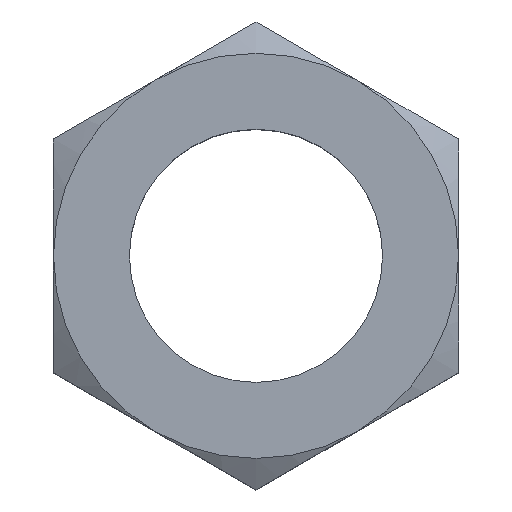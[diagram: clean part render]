
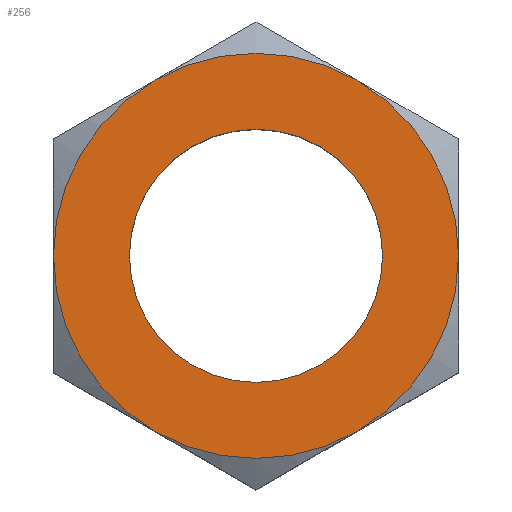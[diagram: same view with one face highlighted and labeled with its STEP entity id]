
A CAD part, top view. The second image highlights one B-rep face of the part: STEP entity #256.
In plain terms, the highlighted planar face has unit normal (0, 0, 1).
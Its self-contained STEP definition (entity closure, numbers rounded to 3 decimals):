
#256 = ADVANCED_FACE ( 'NONE', ( #492, #491 ), #551, .F. ) ;
#257 = EDGE_CURVE ( 'NONE', #326, #323, #546, .T. ) ;
#258 = ORIENTED_EDGE ( 'NONE', *, *, #325, .F. ) ;
#278 = ORIENTED_EDGE ( 'NONE', *, *, #279, .F. ) ;
#279 = EDGE_CURVE ( 'NONE', #328, #329, #577, .T. ) ;
#280 = EDGE_LOOP ( 'NONE', ( #281, #258 ) ) ;
#281 = ORIENTED_EDGE ( 'NONE', *, *, #257, .F. ) ;
#282 = EDGE_LOOP ( 'NONE', ( #278, #330, #333, #336, #339, #342 ) ) ;
#323 = VERTEX_POINT ( 'NONE', #648 ) ;
#325 = EDGE_CURVE ( 'NONE', #323, #326, #647, .T. ) ;
#326 = VERTEX_POINT ( 'NONE', #642 ) ;
#328 = VERTEX_POINT ( 'NONE', #641 ) ;
#329 = VERTEX_POINT ( 'NONE', #640 ) ;
#330 = ORIENTED_EDGE ( 'NONE', *, *, #331, .T. ) ;
#331 = EDGE_CURVE ( 'NONE', #328, #332, #702, .T. ) ;
#332 = VERTEX_POINT ( 'NONE', #703 ) ;
#333 = ORIENTED_EDGE ( 'NONE', *, *, #334, .T. ) ;
#334 = EDGE_CURVE ( 'NONE', #332, #335, #697, .T. ) ;
#335 = VERTEX_POINT ( 'NONE', #692 ) ;
#336 = ORIENTED_EDGE ( 'NONE', *, *, #337, .T. ) ;
#337 = EDGE_CURVE ( 'NONE', #335, #338, #690, .T. ) ;
#338 = VERTEX_POINT ( 'NONE', #691 ) ;
#339 = ORIENTED_EDGE ( 'NONE', *, *, #340, .T. ) ;
#340 = EDGE_CURVE ( 'NONE', #338, #341, #685, .T. ) ;
#341 = VERTEX_POINT ( 'NONE', #680 ) ;
#342 = ORIENTED_EDGE ( 'NONE', *, *, #343, .T. ) ;
#343 = EDGE_CURVE ( 'NONE', #341, #329, #679, .T. ) ;
#491 = FACE_OUTER_BOUND ( 'NONE', #282, .T. ) ;
#492 = FACE_BOUND ( 'NONE', #280, .T. ) ;
#542 = DIRECTION ( 'NONE',  ( 1., 0., 0. ) ) ;
#543 = DIRECTION ( 'NONE',  ( 0., 0., 1. ) ) ;
#544 = CARTESIAN_POINT ( 'NONE',  ( 0., 0., 0. ) ) ;
#545 = AXIS2_PLACEMENT_3D ( 'NONE', #544, #543, #542 ) ;
#546 = CIRCLE ( 'NONE', #545, 5. ) ;
#547 = DIRECTION ( 'NONE',  ( -1., 0., 0. ) ) ;
#548 = DIRECTION ( 'NONE',  ( 0., 0., -1. ) ) ;
#549 = CARTESIAN_POINT ( 'NONE',  ( -8., 13.856, 0. ) ) ;
#550 = AXIS2_PLACEMENT_3D ( 'NONE', #549, #548, #547 ) ;
#551 = PLANE ( 'NONE',  #550 ) ;
#573 = DIRECTION ( 'NONE',  ( -1., 0., 0. ) ) ;
#574 = DIRECTION ( 'NONE',  ( 0., 0., -1. ) ) ;
#575 = CARTESIAN_POINT ( 'NONE',  ( 0., 0., 0. ) ) ;
#576 = AXIS2_PLACEMENT_3D ( 'NONE', #575, #574, #573 ) ;
#577 = CIRCLE ( 'NONE', #576, 8. ) ;
#640 = CARTESIAN_POINT ( 'NONE',  ( -4., 6.928, 0. ) ) ;
#641 = CARTESIAN_POINT ( 'NONE',  ( -8., 0., 0. ) ) ;
#642 = CARTESIAN_POINT ( 'NONE',  ( 5., 0., 0. ) ) ;
#643 = DIRECTION ( 'NONE',  ( 1., 0., 0. ) ) ;
#644 = DIRECTION ( 'NONE',  ( 0., 0., 1. ) ) ;
#645 = CARTESIAN_POINT ( 'NONE',  ( 0., 0., 0. ) ) ;
#646 = AXIS2_PLACEMENT_3D ( 'NONE', #645, #644, #643 ) ;
#647 = CIRCLE ( 'NONE', #646, 5. ) ;
#648 = CARTESIAN_POINT ( 'NONE',  ( -5., 0., 0. ) ) ;
#675 = DIRECTION ( 'NONE',  ( -1., 0., 0. ) ) ;
#676 = DIRECTION ( 'NONE',  ( 0., 0., 1. ) ) ;
#677 = CARTESIAN_POINT ( 'NONE',  ( 0., 0., 0. ) ) ;
#678 = AXIS2_PLACEMENT_3D ( 'NONE', #677, #676, #675 ) ;
#679 = CIRCLE ( 'NONE', #678, 8. ) ;
#680 = CARTESIAN_POINT ( 'NONE',  ( 4., 6.928, 0. ) ) ;
#681 = DIRECTION ( 'NONE',  ( -1., 0., 0. ) ) ;
#682 = DIRECTION ( 'NONE',  ( 0., 0., 1. ) ) ;
#683 = CARTESIAN_POINT ( 'NONE',  ( 0., 0., 0. ) ) ;
#684 = AXIS2_PLACEMENT_3D ( 'NONE', #683, #682, #681 ) ;
#685 = CIRCLE ( 'NONE', #684, 8. ) ;
#686 = DIRECTION ( 'NONE',  ( -1., 0., 0. ) ) ;
#687 = DIRECTION ( 'NONE',  ( 0., 0., 1. ) ) ;
#688 = CARTESIAN_POINT ( 'NONE',  ( 0., 0., 0. ) ) ;
#689 = AXIS2_PLACEMENT_3D ( 'NONE', #688, #687, #686 ) ;
#690 = CIRCLE ( 'NONE', #689, 8. ) ;
#691 = CARTESIAN_POINT ( 'NONE',  ( 8., 0., 0. ) ) ;
#692 = CARTESIAN_POINT ( 'NONE',  ( 4., -6.928, 0. ) ) ;
#693 = DIRECTION ( 'NONE',  ( -1., 0., 0. ) ) ;
#694 = DIRECTION ( 'NONE',  ( 0., 0., 1. ) ) ;
#695 = CARTESIAN_POINT ( 'NONE',  ( 0., 0., 0. ) ) ;
#696 = AXIS2_PLACEMENT_3D ( 'NONE', #695, #694, #693 ) ;
#697 = CIRCLE ( 'NONE', #696, 8. ) ;
#698 = DIRECTION ( 'NONE',  ( -1., 0., 0. ) ) ;
#699 = DIRECTION ( 'NONE',  ( 0., 0., 1. ) ) ;
#700 = CARTESIAN_POINT ( 'NONE',  ( 0., 0., 0. ) ) ;
#701 = AXIS2_PLACEMENT_3D ( 'NONE', #700, #699, #698 ) ;
#702 = CIRCLE ( 'NONE', #701, 8. ) ;
#703 = CARTESIAN_POINT ( 'NONE',  ( -4., -6.928, 0. ) ) ;
